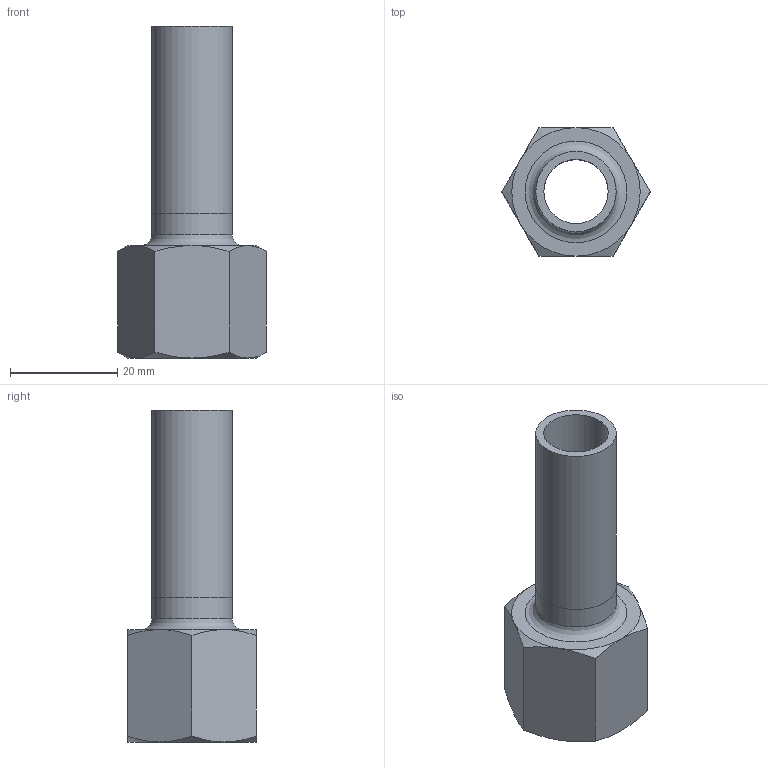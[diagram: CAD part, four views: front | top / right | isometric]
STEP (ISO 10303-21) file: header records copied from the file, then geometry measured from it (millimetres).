
FILE_DESCRIPTION((''),'2;1');
FILE_NAME('G:\Nirosan-Schmiedefeld\Technics\CAD\001 Serie 9.000\015\69246G1512H(1).stp','2017-06-19T15:06:38',('herberg'),(''),'Autodesk Inventor 2009','Autodesk Inventor 2009','');
FILE_SCHEMA(('AUTOMOTIVE_DESIGN { 1 0 10303 214 1 1 1 1 }'));
Length unit declared in the file: millimetre
Products named in the file (3): 69246G1512H(1); 69FXE15P(0); IG1512(1)
Assembly tree (2 placements, depth 2):
  69246G1512H(1)
    69FXE15P(0)
    IG1512(1)
Bounding box: 27.71 x 24 x 62 mm (x, y, z)
Volume: 7820.6 mm3; surface area: 7170.2 mm2
Topology: 2 solids, 2 shells, 31 faces, 62 edges, 37 vertices
Faces by surface type: cone 13, plane 11, bspline 4, cylinder 3
Full cylindrical faces by diameter (mm): 12 x1, 15 x2
Entity records: 884 total; most frequent: CARTESIAN_POINT 255, DIRECTION 118, ORIENTED_EDGE 108, AXIS2_PLACEMENT_3D 56, EDGE_CURVE 54, EDGE_LOOP 44, VERTEX_POINT 36, FACE_OUTER_BOUND 31
